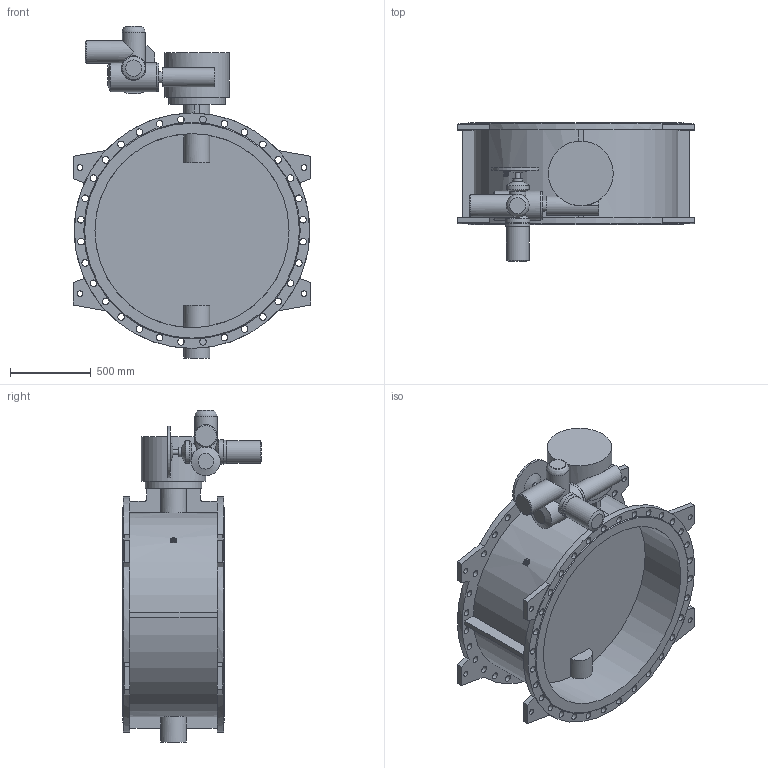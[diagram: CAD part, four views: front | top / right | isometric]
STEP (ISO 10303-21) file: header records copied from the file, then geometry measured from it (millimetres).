
FILE_DESCRIPTION(('STEP AP203'), '1');
FILE_NAME('Çàòâîð 023F.Z DN1200 PN10 + ðåäóêòîð + ÌÒ903.À30', '', ('UNSPECIFIED'), ('UNSPECIFIED'), 'ASCON STEP Converter 1.6', 'ASCON Math Kernel', '');
FILE_SCHEMA(('CONFIG_CONTROL_DESIGN'));
Length unit declared in the file: millimetre
Bounding box: 1466 x 859 x 2052 mm (x, y, z)
Volume: 282581323.7 mm3; surface area: 11195163.3 mm2
Topology: 1 solids, 1 shells, 264 faces, 652 edges, 430 vertices
Faces by surface type: cylinder 138, plane 114, cone 11, torus 1
Full cylindrical faces by diameter (mm): 14 x4, 18 x12, 23 x8, 32 x1, 35 x8, 41 x64, 60 x1, 70 x1, 100 x1, 120 x1, 140 x4, 147 x1, 151 x1, 160 x1, 175 x1, 180 x1, 350 x1, 400 x1, 1200 x2, 1455 x2
Entity records: 11693 total; most frequent: CARTESIAN_POINT 3313, DIRECTION 1303, ORIENTED_EDGE 1044, EDGE_LOOP 575, AXIS2_PLACEMENT_3D 556, EDGE_CURVE 522, VERTEX_POINT 429, FACE_BOUND 332
